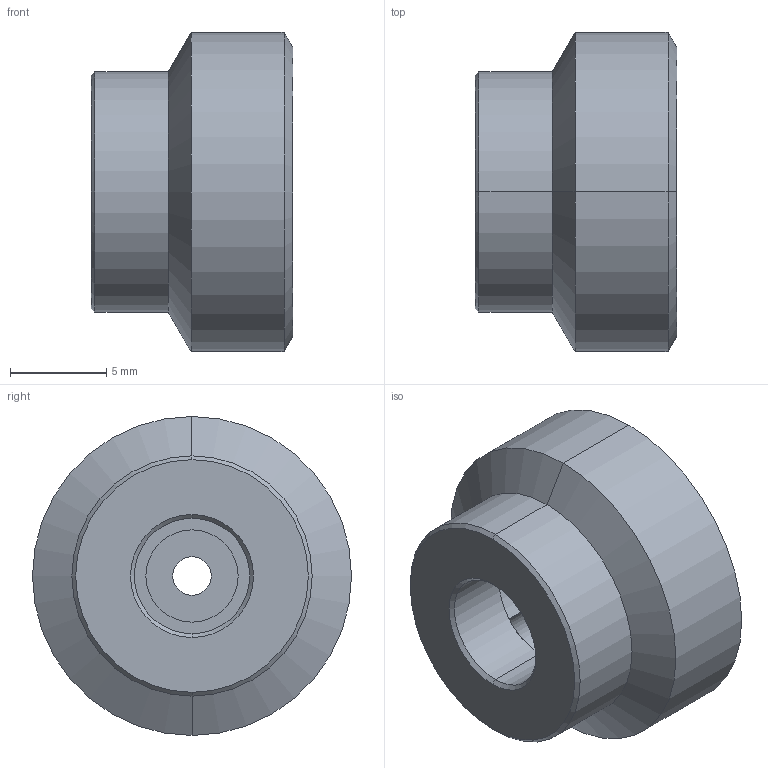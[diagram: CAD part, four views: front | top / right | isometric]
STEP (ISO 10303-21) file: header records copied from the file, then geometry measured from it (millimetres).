
FILE_DESCRIPTION (( 'STEP AP214' ), '1' );
FILE_NAME ('INRV06-002.STEP', '2021-04-23T10:24:47', ( '' ), ( '' ), 'SwSTEP 2.0', 'SolidWorks 2014', '' );
FILE_SCHEMA (( 'AUTOMOTIVE_DESIGN' ));
Length unit declared in the file: millimetre
Products named in the file (1): INRV06-002
Bounding box: 10.5 x 16.6 x 16.6 mm (x, y, z)
Volume: 1268.6 mm3; surface area: 1336.6 mm2
Topology: 1 solids, 1 shells, 59 faces, 161 edges, 88 vertices
Faces by surface type: cylinder 29, cone 20, plane 10
Entity records: 1869 total; most frequent: DIRECTION 363, ORIENTED_EDGE 298, CARTESIAN_POINT 297, AXIS2_PLACEMENT_3D 154, EDGE_CURVE 149, CIRCLE 94, VERTEX_POINT 88, EDGE_LOOP 69
